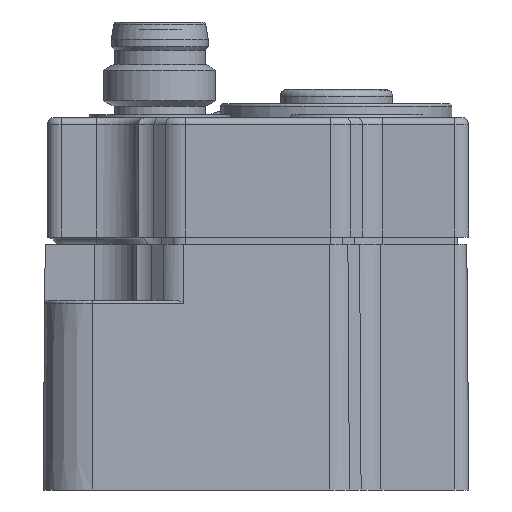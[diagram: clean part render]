
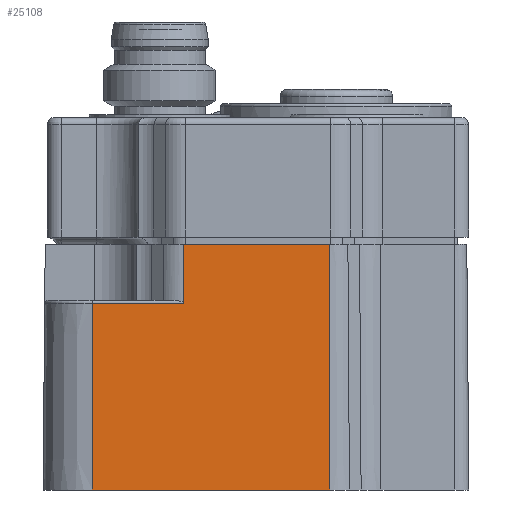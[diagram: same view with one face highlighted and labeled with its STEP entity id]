
A CAD part, front view. The second image highlights one B-rep face of the part: STEP entity #25108.
In plain terms, the highlighted planar face has unit normal (0, -1, 0.009).
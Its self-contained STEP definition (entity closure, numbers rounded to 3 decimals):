
#22989=CARTESIAN_POINT('',(0.579,0.,5.811));
#22990=VERTEX_POINT('',#22989);
#22998=CARTESIAN_POINT('',(10.981,0.,5.811));
#22999=VERTEX_POINT('',#22998);
#23000=CARTESIAN_POINT('',(10.981,0.,5.811));
#23001=DIRECTION('',(-1.0,0.0,0.0));
#23002=VECTOR('',#23001,10.403);
#23003=LINE('',#23000,#23002);
#23004=EDGE_CURVE('',#22999,#22990,#23003,.T.);
#24455=CARTESIAN_POINT('',(-5.903,-0.037,1.613));
#24456=VERTEX_POINT('',#24455);
#24464=CARTESIAN_POINT('',(0.579,-0.037,1.613));
#24465=VERTEX_POINT('',#24464);
#24466=CARTESIAN_POINT('',(-5.903,-0.037,1.613));
#24467=DIRECTION('',(1.0,0.0,0.0));
#24468=VECTOR('',#24467,6.481);
#24469=LINE('',#24466,#24468);
#24470=EDGE_CURVE('',#24456,#24465,#24469,.T.);
#24779=CARTESIAN_POINT('',(0.579,0.,5.811));
#24780=DIRECTION('',(0.0,-0.009,-1.));
#24781=VECTOR('',#24780,4.198);
#24782=LINE('',#24779,#24781);
#24783=EDGE_CURVE('',#22990,#24465,#24782,.T.);
#25064=CARTESIAN_POINT('',(10.981,-0.153,-11.689));
#25065=VERTEX_POINT('',#25064);
#25066=CARTESIAN_POINT('',(10.981,-0.153,-11.689));
#25067=DIRECTION('',(0.,0.009,1.));
#25068=VECTOR('',#25067,17.501);
#25069=LINE('',#25066,#25068);
#25070=EDGE_CURVE('',#25065,#22999,#25069,.T.);
#25083=CARTESIAN_POINT('',(10.981,-0.153,-11.689));
#25084=DIRECTION('',(0.,-1.,0.009));
#25085=DIRECTION('',(1.0,0.,0.));
#25086=AXIS2_PLACEMENT_3D('',#25083,#25084,#25085);
#25087=PLANE('',#25086);
#25088=ORIENTED_EDGE('',*,*,#24470,.F.);
#25089=CARTESIAN_POINT('',(-5.903,-0.153,-11.689));
#25090=VERTEX_POINT('',#25089);
#25091=CARTESIAN_POINT('',(-5.903,-0.153,-11.689));
#25092=DIRECTION('',(0.,0.009,1.));
#25093=VECTOR('',#25092,13.302);
#25094=LINE('',#25091,#25093);
#25095=EDGE_CURVE('',#25090,#24456,#25094,.T.);
#25096=ORIENTED_EDGE('',*,*,#25095,.F.);
#25097=CARTESIAN_POINT('',(10.981,-0.153,-11.689));
#25098=DIRECTION('',(-1.0,0.,0.0));
#25099=VECTOR('',#25098,16.884);
#25100=LINE('',#25097,#25099);
#25101=EDGE_CURVE('',#25065,#25090,#25100,.T.);
#25102=ORIENTED_EDGE('',*,*,#25101,.F.);
#25103=ORIENTED_EDGE('',*,*,#25070,.T.);
#25104=ORIENTED_EDGE('',*,*,#23004,.T.);
#25105=ORIENTED_EDGE('',*,*,#24783,.T.);
#25106=EDGE_LOOP('',(#25088,#25096,#25102,#25103,#25104,#25105));
#25107=FACE_OUTER_BOUND('',#25106,.T.);
#25108=ADVANCED_FACE('',(#25107),#25087,.T.);
